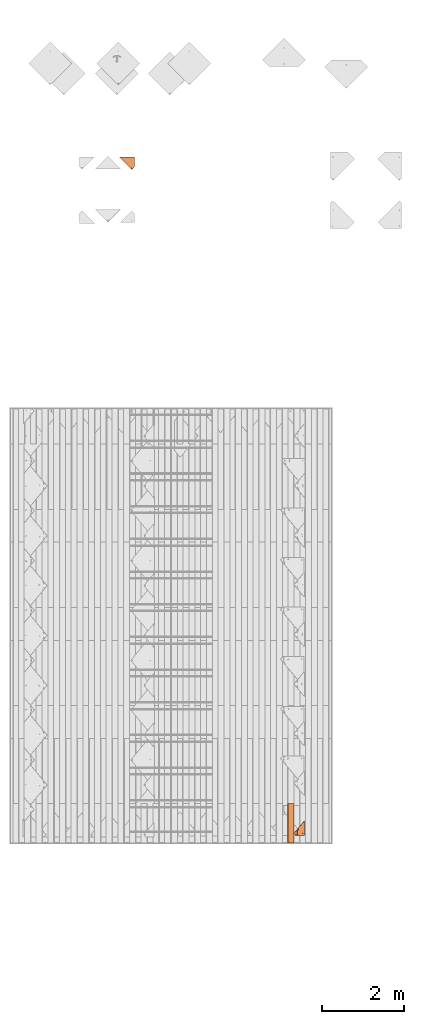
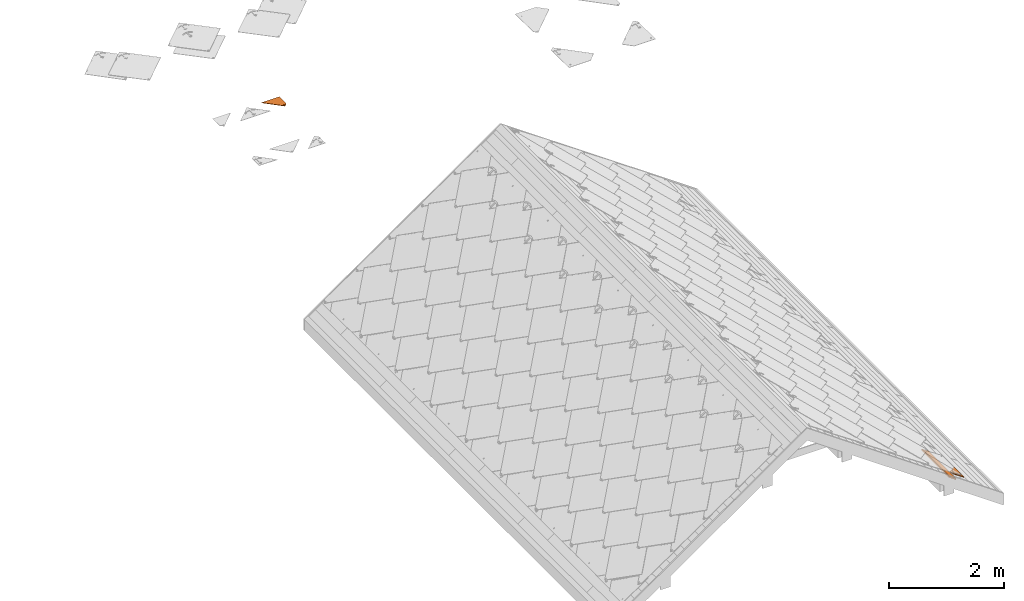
# One storey, part 111 of 133: 3 proxies, 1 element without a shape of its own.
"""IFC2X3 building model written with IfcOpenShell, lengths in millimetres."""

import ifcopenshell
import ifcopenshell.guid

model = None  # the IFC model being written
_history = None  # IfcOwnerHistory: only IFC2X3 demands one
_inside = {}  # id of a spatial element -> (the spatial element, [elements in it])
_under = {}  # id of a project, library or spatial element -> (it, [spatial elements below it])
_declared = {}  # id of a project -> (the project, [libraries it declares])
_typed = {}  # id of a type object -> (the type object, [elements of that type])
_made_of = {}  # id of a material, layer set ... -> (it, [elements and type objects made of it])


def new_model(schema):
    """Start an empty IFC model of exactly this schema.

    Asked for "IFC4X3", IfcOpenShell would pick the latest addendum, in which some entities
    have other attributes; the version numbers below select the first issue.
    IFC2X3 requires an IfcOwnerHistory on every rooted entity: one is made here for all.
    """
    global model, _history
    if schema == "IFC4X3":
        model = ifcopenshell.file(schema_version=(4, 3, 0, 0))
    else:
        model = ifcopenshell.file(schema=schema)
    _inside.clear()
    _under.clear()
    _declared.clear()
    _typed.clear()
    _made_of.clear()
    _history = None
    if model.schema == "IFC2X3":
        org = make("IfcOrganization", Name="unknown")
        user = make(
            "IfcPersonAndOrganization",
            ThePerson=make("IfcPerson", FamilyName="unknown"),
            TheOrganization=org,
        )
        app = make(
            "IfcApplication",
            ApplicationDeveloper=org,
            Version="unknown",
            ApplicationFullName="unknown",
            ApplicationIdentifier="unknown",
        )
        _history = make(
            "IfcOwnerHistory",
            OwningUser=user,
            OwningApplication=app,
            ChangeAction="ADDED",
            CreationDate=0,
        )
    return model


def make(cls, **values):
    """One entity of the class cls with the attributes given. An attribute that is None is left unset."""
    return model.create_entity(
        cls, **{name: value for name, value in values.items() if value is not None}
    )


def entity(cls, *values):
    """Any entity or typed value of the class cls, its attributes in the order of the schema. None: left unset."""
    e = model.create_entity(cls)
    for i, value in enumerate(values):
        if value is not None:
            e[i] = value
    return e


def rooted(cls, **values):
    """An entity with a GlobalId (a new one), such as an element, a storey or a relation."""
    return make(cls, GlobalId=ifcopenshell.guid.new(), OwnerHistory=_history, **values)


def si_unit(unit_type, name, prefix=None):
    """IfcSIUnit, for example si_unit("LENGTHUNIT", "METRE", prefix="MILLI")."""
    return make("IfcSIUnit", UnitType=unit_type, Prefix=prefix, Name=name)


def converted_unit(unit_type, name, factor, base, dimensions=None, offset=None):
    """IfcConversionBasedUnit, such as the inch: factor (a typed value) times the base unit."""
    return make(
        "IfcConversionBasedUnit"
        if offset is None
        else "IfcConversionBasedUnitWithOffset",
        ConversionOffset=offset,
        Dimensions=None
        if dimensions is None
        else entity("IfcDimensionalExponents", *dimensions),
        UnitType=unit_type,
        Name=name,
        ConversionFactor=make(
            "IfcMeasureWithUnit", ValueComponent=factor, UnitComponent=base
        ),
    )


def derived_unit(unit_type, elements):
    """IfcDerivedUnit: a product of units, each with its exponent."""
    return make(
        "IfcDerivedUnit",
        Elements=[
            make("IfcDerivedUnitElement", Unit=unit, Exponent=power)
            for unit, power in elements
        ],
        UnitType=unit_type,
    )


def assignment(units):
    """IfcUnitAssignment: the units of a project."""
    return None if units is None else make("IfcUnitAssignment", Units=units)


def point(xyz):
    """IfcCartesianPoint."""
    return None if xyz is None else make("IfcCartesianPoint", Coordinates=xyz)


def direction(xyz):
    """IfcDirection."""
    return None if xyz is None else make("IfcDirection", DirectionRatios=xyz)


def frame(location, z_axis=None, x_axis=None):
    """IfcAxis2Placement3D, a coordinate frame: its origin and axes. An axis left out is left unset."""
    return make(
        "IfcAxis2Placement3D",
        Location=point(location),
        Axis=direction(z_axis),
        RefDirection=direction(x_axis),
    )


def frame_2d(location, x_axis=None):
    """IfcAxis2Placement2D, a coordinate frame in the plane: its origin and x axis."""
    return make(
        "IfcAxis2Placement2D", Location=point(location), RefDirection=direction(x_axis)
    )


def origin():
    """The frame at (0, 0, 0) with its axes left unset."""
    return frame((0.0, 0.0, 0.0))


def place(relative_to, where):
    """IfcLocalPlacement: puts the frame where relative to a parent placement (None: the world)."""
    return make(
        "IfcLocalPlacement", PlacementRelTo=relative_to, RelativePlacement=where
    )


def context(
    kind, dimensions, precision=None, world=None, true_north=None, identifier=None
):
    """IfcGeometricRepresentationContext, for example the 3D "Model" context."""
    return make(
        "IfcGeometricRepresentationContext",
        ContextIdentifier=identifier,
        ContextType=kind,
        CoordinateSpaceDimension=dimensions,
        Precision=precision,
        WorldCoordinateSystem=world,
        TrueNorth=true_north,
    )


def subcontext(parent, identifier, kind, view, scale=None):
    """IfcGeometricRepresentationSubContext, for example "Body" below "Model"."""
    return make(
        "IfcGeometricRepresentationSubContext",
        ContextIdentifier=identifier,
        ContextType=kind,
        ParentContext=parent,
        TargetScale=scale,
        TargetView=view,
    )


def project(units=None, contexts=None):
    """IfcProject with its units and contexts."""
    return rooted(
        "IfcProject",
        Name="project",
        RepresentationContexts=contexts,
        UnitsInContext=assignment(units),
    )


def spatial(cls, under=None, at=None, **own):
    """A site, building, storey or space (cls), placed at a placement, below another one or the project."""
    s = rooted(cls, ObjectPlacement=at, **own)
    if under is not None:
        _under.setdefault(under.id(), (under, []))[1].append(s)
    return s


def profile(cls, at=None, kind="AREA", **sizes):
    """A parametric profile (cls). Its sizes go by their IFC names, for example OverallWidth=200.0."""
    return make(cls, ProfileType=kind, Position=at, **sizes)


def rectangle(**sizes):
    """IfcRectangleProfileDef."""
    return profile("IfcRectangleProfileDef", **sizes)


def extrude(swept, where, along, depth):
    """IfcExtrudedAreaSolid: the profile swept, set in the frame where, extruded along a direction by depth."""
    return make(
        "IfcExtrudedAreaSolid",
        SweptArea=swept,
        Position=where,
        ExtrudedDirection=direction(along),
        Depth=depth,
    )


def faces_of(points, faces, orient=None, outer=None):
    """IfcFace entities. A face is a list of loops; a loop is a list of indices into points, from 0.

    orient and outer hold one flag for each loop. By default every Orientation is true, the
    first loop of a face is its IfcFaceOuterBound and the others are IfcFaceBound.
    """
    made = []
    for i, loops in enumerate(faces):
        bounds = []
        for j, loop in enumerate(loops):
            is_outer = j == 0 if outer is None else outer[i][j]
            bounds.append(
                make(
                    "IfcFaceOuterBound" if is_outer else "IfcFaceBound",
                    Bound=make("IfcPolyLoop", Polygon=[points[k] for k in loop]),
                    Orientation=True if orient is None else orient[i][j],
                )
            )
        made.append(make("IfcFace", Bounds=bounds))
    return made


def faceted_brep(points, faces, orient=None, outer=None, voids=None):
    """IfcFacetedBrep: a solid bounded by flat faces; with voids (closed shells), ...WithVoids."""
    shared = [point(p) for p in points]
    hull = make("IfcClosedShell", CfsFaces=faces_of(shared, faces, orient, outer))
    if voids is None:
        return make("IfcFacetedBrep", Outer=hull)
    return make(
        "IfcFacetedBrepWithVoids",
        Outer=hull,
        Voids=[
            make(cls, CfsFaces=faces_of(shared, fs, o, b)) for cls, fs, o, b in voids
        ],
    )


def shape(context_of_items, identifier, shape_type, items):
    """IfcShapeRepresentation: the items that make up one representation, for example the "Body"."""
    return make(
        "IfcShapeRepresentation",
        ContextOfItems=context_of_items,
        RepresentationIdentifier=identifier,
        RepresentationType=shape_type,
        Items=items,
    )


def source(mapping_origin, context_of_items, identifier, shape_type, items):
    """IfcRepresentationMap: a shape defined once, which mapped items show again and again."""
    return make(
        "IfcRepresentationMap",
        MappingOrigin=mapping_origin,
        MappedRepresentation=shape(context_of_items, identifier, shape_type, items),
    )


def transform(
    local_origin,
    x_axis=None,
    y_axis=None,
    z_axis=None,
    scale=None,
    scale2=None,
    scale3=None,
    uniform=True,
):
    """IfcCartesianTransformationOperator3D, or its non-uniform kind. x_axis, y_axis, z_axis: its Axis1, 2, 3."""
    if uniform:
        return make(
            "IfcCartesianTransformationOperator3D",
            Axis1=direction(x_axis),
            Axis2=direction(y_axis),
            LocalOrigin=point(local_origin),
            Scale=scale,
            Axis3=direction(z_axis),
        )
    return make(
        "IfcCartesianTransformationOperator3DnonUniform",
        Axis1=direction(x_axis),
        Axis2=direction(y_axis),
        LocalOrigin=point(local_origin),
        Scale=scale,
        Axis3=direction(z_axis),
        Scale2=scale2,
        Scale3=scale3,
    )


def mapped(mapping_source, mapping_target):
    """IfcMappedItem: shows the shape of a source again, moved by a transform."""
    return make(
        "IfcMappedItem", MappingSource=mapping_source, MappingTarget=mapping_target
    )


def material(Name=None, Category=None):
    """IfcMaterial."""
    return make("IfcMaterial", Name=Name, Category=Category)


def material_list(materials):
    """IfcMaterialList."""
    return make("IfcMaterialList", Materials=materials)


def made_of(thing, what):
    """Note that an element or type object is made of a material, layer set ...; save() writes the relation."""
    if what is not None:
        _made_of.setdefault(what.id(), (what, []))[1].append(thing)
    return thing


def type_object(cls, material=None, **own):
    """A type object (cls), such as IfcWallType, which elements share."""
    return made_of(rooted(cls, **own), material)


def type_shapes(of_type, sources):
    """Give a type object the sources (RepresentationMaps) that its elements show as mapped items."""
    of_type.RepresentationMaps = sources


def element(
    cls,
    number,
    at=None,
    inside=None,
    cuts=None,
    type_object=None,
    material=None,
    context=None,
    identifier="Body",
    shape_type=None,
    held_by="IfcProductDefinitionShape",
    body=None,
    shapes=None,
    **own,
):
    """One element of the class cls, such as IfcWall. Its Tag is "e" and its number.

    at: its placement. inside: the storey or other place that contains it. cuts: it is an
    opening in that element (IfcRelVoidsElement). A single representation is given by context,
    identifier, shape_type and body (its items); several are given by shapes. held_by: the class
    of the entity that holds the representations. save() writes the other relations.
    """
    e = rooted(cls, Tag="e%d" % number, ObjectPlacement=at, **own)
    if body is not None:
        shapes = [shape(context, identifier, shape_type, body)]
    if shapes is not None:
        e.Representation = make(held_by, Representations=shapes)
    if inside is not None:
        _inside.setdefault(inside.id(), (inside, []))[1].append(e)
    if cuts is not None:
        rooted(
            "IfcRelVoidsElement", RelatingBuildingElement=cuts, RelatedOpeningElement=e
        )
    if type_object is not None:
        _typed.setdefault(type_object.id(), (type_object, []))[1].append(e)
    return made_of(e, material)


def aggregate(whole, parts):
    """IfcRelAggregates: a whole, such as a stair, and the parts it consists of."""
    return rooted("IfcRelAggregates", RelatingObject=whole, RelatedObjects=parts)


def save(model, path):
    """Write the relations noted so far, then the file.

    IfcRelAggregates (storeys below a building ...), IfcRelContainedInSpatialStructure (elements
    in a storey), IfcRelDefinesByType, IfcRelAssociatesMaterial and IfcRelDeclares: one each for
    every whole, place, type object, material and project.
    """
    for whole, parts in _under.values():
        aggregate(whole, parts)
    for where, things in _inside.values():
        rooted(
            "IfcRelContainedInSpatialStructure",
            RelatedElements=things,
            RelatingStructure=where,
        )
    for kind, things in _typed.values():
        rooted("IfcRelDefinesByType", RelatedObjects=things, RelatingType=kind)
    for what, things in _made_of.values():
        rooted("IfcRelAssociatesMaterial", RelatedObjects=things, RelatingMaterial=what)
    for by, libraries in _declared.values():
        rooted("IfcRelDeclares", RelatingContext=by, RelatedDefinitions=libraries)
    model.write(path)


model = new_model("IFC2X3")

# Units and contexts
model_context = context("Model", 3, precision=0.01, world=origin(), true_north=direction((6.12303176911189e-17, 1.0)))
body_context = subcontext(model_context, "Body", "Model", "MODEL_VIEW")
ifc_project = project(units=[si_unit("LENGTHUNIT", "METRE", prefix="MILLI"), si_unit("AREAUNIT", "SQUARE_METRE"), si_unit("VOLUMEUNIT", "CUBIC_METRE"), converted_unit("PLANEANGLEUNIT", "DEGREE", entity("IfcRatioMeasure", 0.0174532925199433), si_unit("PLANEANGLEUNIT", "RADIAN"), dimensions=[0, 0, 0, 0, 0, 0, 0]), si_unit("MASSUNIT", "GRAM", prefix="KILO"), derived_unit("MASSDENSITYUNIT", [(si_unit("MASSUNIT", "GRAM", prefix="KILO"), 1), (si_unit("LENGTHUNIT", "METRE"), -3)]), si_unit("TIMEUNIT", "SECOND"), si_unit("FREQUENCYUNIT", "HERTZ"), si_unit("THERMODYNAMICTEMPERATUREUNIT", "DEGREE_CELSIUS"), derived_unit("THERMALTRANSMITTANCEUNIT", [(si_unit("MASSUNIT", "GRAM", prefix="KILO"), 1), (si_unit("THERMODYNAMICTEMPERATUREUNIT", "KELVIN"), -1), (si_unit("TIMEUNIT", "SECOND"), -3)]), derived_unit("VOLUMETRICFLOWRATEUNIT", [(si_unit("LENGTHUNIT", "METRE"), 3), (si_unit("TIMEUNIT", "SECOND"), -1)]), si_unit("ELECTRICCURRENTUNIT", "AMPERE"), si_unit("ELECTRICVOLTAGEUNIT", "VOLT"), si_unit("POWERUNIT", "WATT"), si_unit("FORCEUNIT", "NEWTON", prefix="KILO"), si_unit("ILLUMINANCEUNIT", "LUX"), si_unit("LUMINOUSFLUXUNIT", "LUMEN"), si_unit("LUMINOUSINTENSITYUNIT", "CANDELA"), derived_unit("USERDEFINED", [(si_unit("MASSUNIT", "GRAM", prefix="KILO"), -1), (si_unit("LENGTHUNIT", "METRE"), -2), (si_unit("TIMEUNIT", "SECOND"), 3), (si_unit("LUMINOUSFLUXUNIT", "LUMEN"), 1)]), derived_unit("LINEARVELOCITYUNIT", [(si_unit("LENGTHUNIT", "METRE"), 1), (si_unit("TIMEUNIT", "SECOND"), -1)]), si_unit("PRESSUREUNIT", "PASCAL"), derived_unit("USERDEFINED", [(si_unit("LENGTHUNIT", "METRE"), -2), (si_unit("MASSUNIT", "GRAM", prefix="KILO"), 1), (si_unit("TIMEUNIT", "SECOND"), -2)])], contexts=[model_context])

# Site, building, storey
site_placement = place(None, origin())
site = spatial("IfcSite", under=ifc_project, at=site_placement, Name="Default", CompositionType="ELEMENT")
building_placement = place(site_placement, origin())
building = spatial("IfcBuilding", under=site, at=building_placement, CompositionType="ELEMENT")
storey_placement = place(building_placement, origin())
storey = spatial("IfcBuildingStorey", under=building, at=storey_placement, Name="Level 1", CompositionType="ELEMENT", Elevation=0.0)

# Assembly, proxy
assembly_placement = place(storey_placement, origin())
assembly = element("IfcElementAssembly", 1, at=assembly_placement, inside=storey, Name="Structural Framing Assembly:Roof Construction Assembly", ObjectType="Structural Framing Assembly:Roof Construction Assembly", AssemblyPlace="NOTDEFINED", PredefinedType="USERDEFINED")
ifc_material_1 = material(Name="Wood - Generic - Wood For Showcase")
building_element_proxy_type_1 = type_object("IfcBuildingElementProxyType", Name="Structural Framing 15", PredefinedType="NOTDEFINED", material=ifc_material_1)
shared_shape_1 = source(origin(), body_context, "Body", "SweptSolid", [
    extrude(rectangle(XDim=24.9999999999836, YDim=174.344679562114, at=frame_2d((3.79252185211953e-13, 7.105427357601e-14), x_axis=(1.0, 0.0))), frame((1285.3560130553, 2967.09519417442, 2760.23940055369), z_axis=(0.0, 1.0, 0.0), x_axis=(0.573576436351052, 0.0, 0.819152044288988)), (0.0, 0.0, 1.0), 958.455607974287),
])
type_shapes(building_element_proxy_type_1, [shared_shape_1])
proxy_1_placement = place(assembly_placement, frame((2856.29601348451, -9670.0, -2000.0)))
proxy_1 = element("IfcBuildingElementProxy", 2, at=proxy_1_placement, type_object=building_element_proxy_type_1, material=ifc_material_1, Name="Structural Framing 259:Structural Framing 15", ObjectType="Structural Framing 259:Structural Framing 15", context=body_context, shape_type="MappedRepresentation", body=[
    mapped(shared_shape_1, transform((0.0, 0.0, 0.0), scale=1.0)),
])
aggregate(assembly, [proxy_1])

# Proxies
ifc_material_2 = material(Name="Rubber - Sunstyle - Black")
ifc_material_3 = material(Name="Glass - Sunstyle - Tainted Black")
ifc_material_list_1 = material_list([ifc_material_2, ifc_material_3])
ifc_material_list_2 = material_list([ifc_material_2, ifc_material_3])
building_element_proxy_type_2 = type_object("IfcBuildingElementProxyType", Name="Corner Top Small Right - Black", PredefinedType="NOTDEFINED", material=ifc_material_list_2)
shared_shape_2 = source(origin(), body_context, "Body", "Brep", [
    faceted_brep([(300.309183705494, 41.6050579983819, 1.59527223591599), (294.534980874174, 38.2717878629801, 1.65109621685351), (294.534980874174, 38.6400969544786, 23.6429655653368), (300.309183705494, 41.9733670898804, 23.5871415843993), (294.534980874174, 31.6052475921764, 1.76274417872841), (294.534980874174, 31.9735566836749, 23.7546135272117), (300.309183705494, 28.2719774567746, 1.81856815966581), (300.309183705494, 28.640286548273, 23.8104375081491), (306.083386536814, 31.6052475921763, 1.7627441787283), (306.083386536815, 31.9735566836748, 23.7546135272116), (306.083386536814, 38.2717878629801, 1.65109621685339), (306.083386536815, 38.6400969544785, 23.6429655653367), (291.705479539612, 26.704328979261, 23.8428599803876), (300.309183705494, 23.1410577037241, 23.9025359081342), (288.141708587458, 35.3068268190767, 23.6987895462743), (291.705479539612, 43.9093246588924, 23.5547191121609), (300.309183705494, 47.4725959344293, 23.4950431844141), (308.912887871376, 43.9093246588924, 23.5547191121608), (312.476658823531, 35.3068268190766, 23.6987895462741), (308.912887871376, 26.704328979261, 23.8428599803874), (288.984939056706, 37.6019039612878, 26.0116314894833), (290.552709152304, 35.3778417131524, 27.9391141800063), (300.309183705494, 42.6909169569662, 28.5718145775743), (300.309183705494, 43.9314145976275, 27.9914679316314), (300.309183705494, 46.0889654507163, 26.98209285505), (300.309183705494, 23.6971017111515, 25.1775938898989), (300.309183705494, 24.6406783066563, 27.3412982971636), (300.309183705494, 28.0900540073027, 28.8163427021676), (300.309183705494, 46.9595598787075, 24.7880055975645), (293.985938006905, 31.7402697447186, 28.7552106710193), (293.985938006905, 39.0407012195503, 28.6329466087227), (311.633428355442, 33.0904837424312, 26.0871865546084), (310.15806385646, 34.3034352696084, 27.8602460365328), (306.632429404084, 39.0407012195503, 28.6329466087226), (306.632429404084, 31.7402697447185, 28.7552106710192), (293.985938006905, 31.8742982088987, 36.7580988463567), (300.309183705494, 28.224082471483, 36.8192308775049), (300.309183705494, 35.5245139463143, 36.6969668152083), (293.985938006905, 39.17472968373, 36.6358347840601), (306.632429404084, 31.8742982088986, 36.7580988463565), (306.632429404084, 39.1747296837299, 36.6358347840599), (300.309183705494, 42.8249454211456, 36.5747027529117), (300.309183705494, 34.9385177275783, 1.7069201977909)], [[[0, 1, 2, 3]], [[1, 4, 5, 2]], [[4, 6, 7, 5]], [[6, 8, 9, 7]], [[8, 10, 11, 9]], [[10, 0, 3, 11]], [[12, 7, 13]], [[7, 12, 5]], [[14, 5, 12]], [[5, 14, 2]], [[15, 2, 14]], [[3, 2, 15]], [[15, 16, 3]], [[16, 17, 3]], [[11, 3, 17]], [[11, 17, 18]], [[9, 11, 18]], [[18, 19, 9]], [[7, 9, 19]], [[19, 13, 7]], [[20, 14, 12]], [[21, 22, 23, 24]], [[24, 20, 21]], [[25, 20, 12]], [[26, 27, 21]], [[15, 14, 20]], [[12, 13, 25]], [[20, 28, 15]], [[28, 20, 24]], [[21, 27, 29]], [[21, 29, 30]], [[26, 21, 20]], [[20, 25, 26]], [[15, 28, 16]], [[21, 30, 22]], [[31, 18, 17]], [[28, 31, 17]], [[32, 27, 26]], [[26, 31, 32]], [[26, 25, 31]], [[25, 19, 31]], [[17, 16, 28]], [[31, 19, 18]], [[24, 31, 28]], [[33, 34, 32]], [[23, 22, 33]], [[24, 32, 31]], [[27, 32, 34]], [[32, 23, 33]], [[19, 25, 13]], [[32, 24, 23]], [[35, 36, 37]], [[37, 38, 35]], [[36, 39, 37]], [[40, 37, 39]], [[37, 40, 41]], [[37, 41, 38]], [[42, 6, 4]], [[4, 1, 42]], [[1, 0, 42]], [[42, 8, 6]], [[0, 10, 42]], [[8, 42, 10]], [[22, 30, 38, 41]], [[30, 29, 35, 38]], [[29, 27, 36, 35]], [[27, 34, 39, 36]], [[34, 33, 40, 39]], [[33, 22, 41, 40]]]),
    faceted_brep([(300.700466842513, 0.125588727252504, 24.1962208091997), (304.302649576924, 28.4261395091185, 23.7222570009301), (302.373201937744, 27.6270481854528, 23.7356397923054), (305.959503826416, 29.6973102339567, 23.7009680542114), (300.302649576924, 27.3544930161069, 23.7402044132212), (307.230852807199, 31.3539321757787, 23.6732237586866), (360.803898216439, 60.2121670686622, 23.189920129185), (298.232097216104, 27.6270481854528, 23.7356397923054), (296.302649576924, 28.4261395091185, 23.7222570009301), (294.645795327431, 29.6973102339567, 23.7009680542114), (293.374446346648, 31.3539321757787, 23.6732237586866), (292.575242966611, 33.2831092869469, 23.6409148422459), (0.0, 300.741739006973, 19.1616482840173), (308.030056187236, 33.2831092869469, 23.6409148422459), (308.302649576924, 35.3533713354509, 23.6062431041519), (308.030056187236, 37.4236333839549, 23.5715713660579), (307.230852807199, 39.3528104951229, 23.5392624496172), (305.959503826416, 41.0094324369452, 23.5115181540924), (304.302649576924, 42.2806031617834, 23.4902292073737), (302.373201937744, 43.079694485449, 23.4768464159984), (300.302649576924, 43.3522496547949, 23.4722817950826), (360.803898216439, 300.741739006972, 19.1616482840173), (298.232097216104, 43.079694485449, 23.4768464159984), (296.302649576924, 42.2806031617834, 23.4902292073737), (294.645795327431, 41.009432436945, 23.5115181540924), (292.302649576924, 35.3533713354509, 23.6062431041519), (292.575242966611, 37.4236333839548, 23.5715713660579), (293.374446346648, 39.3528104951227, 23.5392624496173), (300.302649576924, 43.2266609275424, 15.9733333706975), (360.803898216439, 300.616150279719, 11.6626998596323), (360.803898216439, 60.0865783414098, 15.6909717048), (302.373201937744, 42.9541057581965, 15.9778979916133), (298.232097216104, 42.9541057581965, 15.9778979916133), (296.302649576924, 42.1550144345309, 15.9912807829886), (0.0, 300.61615027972, 11.6626998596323), (294.645795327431, 40.8838437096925, 16.0125697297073), (293.374446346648, 39.2272217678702, 16.0403140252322), (292.575242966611, 37.2980446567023, 16.0726229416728), (292.302649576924, 35.2277826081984, 16.1072946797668), (292.575242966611, 33.1575205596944, 16.1419664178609), (300.700466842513, 0.0, 16.6972723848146), (293.374446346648, 31.2283434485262, 16.1742753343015), (294.645795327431, 29.5717215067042, 16.2020196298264), (296.302649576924, 28.300550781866, 16.2233085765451), (298.232097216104, 27.5014594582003, 16.2366913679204), (300.302649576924, 27.2289042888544, 16.2412559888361), (302.373201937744, 27.5014594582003, 16.2366913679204), (304.302649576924, 28.300550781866, 16.2233085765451), (305.959503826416, 29.5717215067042, 16.2020196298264), (307.230852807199, 31.2283434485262, 16.1742753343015), (308.030056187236, 33.1575205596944, 16.1419664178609), (308.302649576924, 35.2277826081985, 16.1072946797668), (308.030056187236, 37.2980446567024, 16.0726229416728), (307.230852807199, 39.2272217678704, 16.0403140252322), (305.959503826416, 40.8838437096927, 16.0125697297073), (304.302649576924, 42.1550144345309, 15.9912807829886)], [[[0, 1, 2]], [[1, 0, 3]], [[0, 2, 4]], [[5, 3, 0]], [[5, 0, 6]], [[4, 7, 0]], [[7, 8, 0]], [[8, 9, 0]], [[9, 10, 0]], [[10, 11, 0]], [[0, 11, 12]], [[6, 13, 5]], [[14, 13, 6]], [[15, 14, 6]], [[16, 15, 6]], [[17, 16, 6]], [[6, 18, 17]], [[19, 18, 6]], [[19, 6, 20]], [[6, 21, 20]], [[20, 21, 22]], [[23, 22, 21]], [[12, 23, 21]], [[23, 12, 24]], [[11, 25, 12]], [[26, 12, 25]], [[26, 27, 12]], [[27, 24, 12]], [[28, 29, 30]], [[28, 30, 31]], [[32, 29, 28]], [[32, 33, 29]], [[29, 33, 34]], [[33, 35, 34]], [[35, 36, 34]], [[36, 37, 34]], [[34, 37, 38]], [[38, 39, 34]], [[40, 34, 39]], [[39, 41, 40]], [[41, 42, 40]], [[42, 43, 40]], [[44, 40, 43]], [[44, 45, 40]], [[46, 40, 45]], [[40, 46, 47]], [[47, 48, 40]], [[48, 49, 40]], [[50, 30, 49]], [[30, 40, 49]], [[50, 51, 30]], [[30, 51, 52]], [[52, 53, 30]], [[53, 54, 30]], [[54, 55, 30]], [[31, 30, 55]], [[0, 12, 34, 40]], [[6, 0, 40, 30]], [[25, 38, 37, 26]], [[26, 37, 36, 27]], [[23, 24, 35, 33]], [[35, 24, 27, 36]], [[22, 23, 33, 32]], [[22, 32, 28, 20]], [[20, 28, 31, 19]], [[19, 31, 55, 18]], [[16, 17, 54, 53]], [[54, 17, 18, 55]], [[15, 16, 53, 52]], [[15, 52, 51, 14]], [[14, 51, 50, 13]], [[13, 50, 49, 5]], [[1, 3, 48, 47]], [[48, 3, 5, 49]], [[2, 1, 47, 46]], [[2, 46, 45, 4]], [[4, 45, 44, 7]], [[7, 44, 43, 8]], [[10, 9, 42, 41]], [[42, 9, 8, 43]], [[11, 10, 41, 39]], [[11, 39, 38, 25]], [[12, 21, 29, 34]], [[21, 6, 30, 29]]]),
])
type_shapes(building_element_proxy_type_2, [shared_shape_2])
proxy_2_placement = place(storey_placement, frame((-51.1380299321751, 9780.85327205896, 2.41109682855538)))
element("IfcBuildingElementProxy", 3, at=proxy_2_placement, inside=storey, type_object=building_element_proxy_type_2, material=ifc_material_list_1, Name="Roofing_Panels_SunStyle_Tile_Corner-Top-Small-Right:Corner Top Small Right - Black", ObjectType="Roofing_Panels_SunStyle_Tile_Corner-Top-Small-Right:Corner Top Small Right - Black", context=body_context, shape_type="MappedRepresentation", body=[
    mapped(shared_shape_2, transform((0.0, 0.0, 0.0), scale=1.0)),
])
ifc_material_list_3 = material_list([ifc_material_2, ifc_material_3])
ifc_material_list_4 = material_list([ifc_material_2, ifc_material_3])
building_element_proxy_type_3 = type_object("IfcBuildingElementProxyType", Name="Corner Bottom Small Left - Black", PredefinedType="NOTDEFINED", material=ifc_material_list_4)
shared_shape_3 = source(origin(), body_context, "Body", "Brep", [
    faceted_brep([(330.847757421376, 18.4932261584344, 12.2894055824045), (339.332443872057, 26.9779126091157, 12.1473081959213), (339.332443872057, 27.0030303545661, 13.6470978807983), (330.847757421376, 18.5183439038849, 13.7891952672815), (61.6993486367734, 287.566165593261, 7.7831033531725), (10.0799586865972, 235.961249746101, 8.64735729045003), (1.59527223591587, 244.445936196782, 8.50525990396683), (61.6993486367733, 304.533159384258, 7.49894842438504), (61.6993486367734, 304.558277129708, 8.9987381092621), (1.59527223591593, 244.471053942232, 10.0050495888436), (10.0799586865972, 235.986367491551, 10.147146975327), (61.6993486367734, 287.591283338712, 9.2828930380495)], [[[0, 1, 2, 3]], [[1, 0, 4, 5, 6, 7]], [[2, 1, 7, 8]], [[3, 2, 8, 9, 10, 11]], [[0, 3, 11, 4]], [[5, 10, 9, 6]], [[8, 7, 6, 9]], [[4, 11, 10, 5]]]),
    faceted_brep([(61.6990261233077, 46.946835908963, 21.8142807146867), (61.6990261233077, 51.4462045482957, 21.7389274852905), (53.0953219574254, 50.5101071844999, 21.7546047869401), (70.3027302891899, 50.5101071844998, 21.7546047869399), (68.3392547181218, 55.2794047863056, 21.6747309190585), (73.8665012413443, 59.1126050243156, 21.6105343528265), (68.3392547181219, 62.9458052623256, 21.5463377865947), (70.30273028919, 67.7151028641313, 21.4664639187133), (61.6990261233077, 66.7790055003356, 21.4821412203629), (61.6990261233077, 71.2783741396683, 21.4067879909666), (53.0953219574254, 67.7151028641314, 21.4664639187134), (55.0587975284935, 62.9458052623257, 21.5463377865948), (49.5315510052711, 59.1126050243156, 21.6105343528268), (55.0587975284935, 55.2794047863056, 21.6747309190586), (55.0587978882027, 62.6778824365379, 5.54858115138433), (61.6990261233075, 66.5110824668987, 5.48438458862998), (55.0587978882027, 55.0114823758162, 5.6769742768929), (61.6990261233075, 51.1782823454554, 5.74117083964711), (68.3392543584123, 55.0114823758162, 5.67697427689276), (68.3392543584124, 62.6778824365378, 5.5485811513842), (53.0953219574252, 50.2421845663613, 5.75684814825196), (61.6990261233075, 46.6789132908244, 5.81652407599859), (49.5315510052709, 58.844682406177, 5.61277771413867), (53.0953219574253, 67.4471802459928, 5.4687072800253), (61.6990261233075, 71.0104515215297, 5.4090313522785), (70.3027302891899, 67.4471802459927, 5.46870728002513), (73.8665012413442, 58.844682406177, 5.61277771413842), (70.3027302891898, 50.2421845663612, 5.75684814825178)], [[[0, 1, 2]], [[1, 0, 3]], [[3, 4, 1]], [[4, 3, 5]], [[6, 4, 5]], [[5, 7, 6]], [[7, 8, 6]], [[8, 7, 9]], [[8, 9, 10]], [[10, 11, 8]], [[12, 11, 10]], [[2, 13, 12]], [[12, 13, 11]], [[13, 2, 1]], [[8, 11, 14, 15]], [[11, 13, 16, 14]], [[13, 1, 17, 16]], [[1, 4, 18, 17]], [[4, 6, 19, 18]], [[6, 8, 15, 19]], [[20, 17, 21]], [[17, 20, 16]], [[22, 16, 20]], [[14, 16, 22]], [[23, 14, 22]], [[15, 14, 23]], [[23, 24, 15]], [[24, 25, 15]], [[19, 15, 25]], [[19, 25, 26]], [[26, 18, 19]], [[26, 27, 18]], [[17, 18, 27]], [[27, 21, 17]], [[24, 23, 10, 9]], [[10, 23, 22, 12]], [[20, 21, 0, 2]], [[20, 2, 12, 22]], [[21, 27, 3, 0]], [[3, 27, 26, 5]], [[25, 24, 9, 7]], [[25, 7, 5, 26]]]),
    faceted_brep([(1.59527223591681, 244.445936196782, 8.50525990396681), (58.5931975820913, 70.7020897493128, 11.4150370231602), (61.6990261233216, 71.1109225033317, 11.4081900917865), (55.6990261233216, 69.5034527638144, 11.4351112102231), (64.8048546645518, 70.7020897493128, 11.4150370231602), (53.213744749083, 67.596696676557, 11.4670446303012), (51.3067212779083, 65.1117637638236, 11.5086610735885), (1.5952722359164, 0.125588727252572, 12.5970178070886), (67.6990261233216, 69.5034527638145, 11.4351112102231), (61.6993486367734, 304.533159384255, 7.49894842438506), (50.1079162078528, 62.2179980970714, 11.5571244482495), (49.6990261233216, 59.1126050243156, 11.6091320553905), (50.1079162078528, 56.0072119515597, 11.6611396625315), (51.3067212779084, 53.1134462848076, 11.7096030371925), (53.2137447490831, 50.6285133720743, 11.7512194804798), (55.6990261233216, 48.7217572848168, 11.7831529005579), (58.5931975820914, 47.5231202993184, 11.8032270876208), (61.6990261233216, 47.1142875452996, 11.8100740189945), (64.8048546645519, 47.5231202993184, 11.8032270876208), (67.6990261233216, 48.7217572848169, 11.7831529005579), (366.192299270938, 0.125588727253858, 12.5970178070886), (72.0913309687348, 65.1117637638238, 11.5086610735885), (73.2901360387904, 62.2179980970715, 11.5571244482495), (73.6990261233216, 59.1126050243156, 11.6091320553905), (70.1843074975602, 50.6285133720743, 11.7512194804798), (72.0913309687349, 53.1134462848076, 11.7096030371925), (73.2901360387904, 56.0072119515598, 11.6611396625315), (70.1843074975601, 67.596696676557, 11.4670446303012), (1.5952722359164, 0.0, 5.09806938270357), (55.6990261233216, 48.5961685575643, 4.2842044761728), (58.5931975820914, 47.3975315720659, 4.30427866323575), (53.2137447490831, 50.5029246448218, 4.25227105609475), (61.6990261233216, 46.9886988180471, 4.3111255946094), (51.3067212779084, 52.9878575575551, 4.21065461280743), (50.1079162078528, 55.8816232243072, 4.16219123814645), (49.6990261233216, 58.9870162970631, 4.11018363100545), (50.1079162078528, 62.0924093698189, 4.05817602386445), (64.8048546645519, 47.3975315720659, 4.30427866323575), (67.6990261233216, 48.5961685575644, 4.2842044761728), (366.192299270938, 0.0, 5.09806938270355), (51.3067212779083, 64.9861750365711, 4.00971264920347), (1.59527223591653, 244.320347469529, 1.00631147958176), (53.213744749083, 67.4711079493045, 3.96809620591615), (55.6990261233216, 69.3778640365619, 3.93616278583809), (58.5931975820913, 70.5765010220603, 3.91608859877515), (61.6990261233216, 70.9853337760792, 3.90924166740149), (64.8048546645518, 70.5765010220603, 3.91608859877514), (67.6990261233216, 69.377864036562, 3.93616278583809), (61.6993486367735, 304.407570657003, 0.0), (72.0913309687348, 64.9861750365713, 4.00971264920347), (70.1843074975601, 67.4711079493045, 3.96809620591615), (70.1843074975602, 50.5029246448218, 4.25227105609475), (72.0913309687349, 52.9878575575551, 4.21065461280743), (73.2901360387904, 55.8816232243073, 4.16219123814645), (73.6990261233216, 58.9870162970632, 4.11018363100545), (73.2901360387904, 62.092409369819, 4.05817602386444)], [[[0, 1, 2]], [[1, 0, 3]], [[0, 2, 4]], [[5, 3, 0]], [[6, 5, 0]], [[6, 0, 7]], [[8, 0, 4]], [[0, 8, 9]], [[7, 10, 6]], [[11, 10, 7]], [[12, 11, 7]], [[13, 12, 7]], [[7, 14, 13]], [[14, 7, 15]], [[16, 15, 7]], [[7, 17, 16]], [[17, 7, 18]], [[19, 18, 7]], [[20, 19, 7]], [[9, 21, 20]], [[20, 21, 22]], [[20, 22, 23]], [[19, 20, 24]], [[25, 24, 20]], [[26, 25, 20]], [[26, 20, 23]], [[9, 8, 27]], [[27, 21, 9]], [[28, 29, 30]], [[29, 28, 31]], [[28, 30, 32]], [[33, 31, 28]], [[34, 33, 28]], [[35, 34, 28]], [[28, 36, 35]], [[37, 28, 32]], [[37, 38, 28]], [[28, 38, 39]], [[36, 28, 40]], [[28, 41, 40]], [[42, 40, 41]], [[41, 43, 42]], [[43, 41, 44]], [[45, 44, 41]], [[41, 46, 45]], [[41, 47, 46]], [[47, 41, 48]], [[49, 48, 39]], [[50, 47, 48]], [[48, 49, 50]], [[38, 51, 39]], [[51, 52, 39]], [[52, 53, 39]], [[39, 53, 54]], [[55, 39, 54]], [[49, 39, 55]], [[11, 35, 36, 10]], [[10, 36, 40, 6]], [[3, 5, 42, 43]], [[40, 42, 5, 6]], [[1, 3, 43, 44]], [[45, 2, 1, 44]], [[4, 46, 47, 8]], [[8, 47, 50, 27]], [[22, 21, 49, 55]], [[50, 49, 21, 27]], [[23, 22, 55, 54]], [[4, 2, 45, 46]], [[23, 54, 53, 26]], [[26, 53, 52, 25]], [[19, 24, 51, 38]], [[52, 51, 24, 25]], [[18, 19, 38, 37]], [[32, 17, 18, 37]], [[16, 30, 29, 15]], [[15, 29, 31, 14]], [[12, 13, 33, 34]], [[31, 33, 13, 14]], [[11, 12, 34, 35]], [[16, 17, 32, 30]], [[0, 9, 48, 41]], [[7, 0, 41, 28]], [[20, 7, 28, 39]], [[9, 20, 39, 48]]]),
    faceted_brep([(1.59527223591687, 209.239382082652, 19.0962843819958), (1.59527223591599, 182.513149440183, 19.5438822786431), (24.4390403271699, 190.969673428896, 19.4022565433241), (34.6448586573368, 218.551914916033, 18.9403226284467), (48.3990261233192, 195.36105911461, 19.3287117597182), (68.9162632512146, 220.671424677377, 18.9048261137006), (74.999026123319, 195.361059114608, 19.3287117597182), (74.99902612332, 85.4841763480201, 21.1688761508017), (48.3990261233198, 85.4841763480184, 21.1688761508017), (61.6990261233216, 71.2783741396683, 21.4067879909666), (58.5931975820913, 70.8695413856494, 21.4136349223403), (55.6990261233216, 69.670904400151, 21.4337091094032), (42.9949199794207, 81.9461281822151, 21.2281296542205), (53.213744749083, 67.7641483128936, 21.4656425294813), (38.4943757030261, 77.3131226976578, 21.3057209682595), (51.3067212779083, 65.2792154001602, 21.5072589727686), (35.1148065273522, 71.8089720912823, 21.397901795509), (50.1079162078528, 62.385449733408, 21.5557223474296), (33.0194733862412, 65.6995720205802, 21.5002190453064), (49.6990261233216, 59.2800566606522, 21.6077299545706), (32.3095980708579, 59.2800566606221, 21.6077299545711), (50.1079162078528, 56.1746635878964, 21.6597375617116), (51.3067212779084, 53.2808979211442, 21.7082009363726), (53.2137447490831, 50.7959650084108, 21.7498173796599), (61.6990261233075, 29.8947493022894, 22.0998607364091), (55.6990261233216, 48.8892089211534, 21.7817507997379), (58.5931975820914, 47.690571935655, 21.8018249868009), (61.6990261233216, 47.2817391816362, 21.8086719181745), (64.8048546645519, 47.690571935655, 21.8018249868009), (67.6990261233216, 48.8892089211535, 21.7817507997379), (70.1843074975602, 50.7959650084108, 21.7498173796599), (91.0884541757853, 59.2800566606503, 21.6077299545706), (72.0913309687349, 53.2808979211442, 21.7082009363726), (73.2901360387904, 56.1746635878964, 21.6597375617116), (73.6990261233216, 59.2800566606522, 21.6077299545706), (90.3785788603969, 65.699572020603, 21.500219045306), (73.2901360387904, 62.3854497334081, 21.5557223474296), (88.2832457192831, 71.8089720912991, 21.3979017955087), (72.0913309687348, 65.2792154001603, 21.5072589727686), (84.9036765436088, 77.3131226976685, 21.3057209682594), (70.1843074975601, 67.7641483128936, 21.4656425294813), (80.4031322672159, 81.9461281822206, 21.2281296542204), (67.6990261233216, 69.6709044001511, 21.4337091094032), (64.8048546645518, 70.8695413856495, 21.4136349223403), (102.861723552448, 215.50219023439, 18.9913979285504), (100.468768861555, 190.546178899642, 19.4093490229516), (134.948197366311, 203.277664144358, 19.1961283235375), (124.623359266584, 181.142545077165, 19.5668364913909), (146.643422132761, 167.469148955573, 19.7958318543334), (163.72659789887, 184.549929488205, 19.5097712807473), (51.3067212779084, 53.1134462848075, 11.7096030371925), (32.3095980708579, 59.1126050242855, 11.609132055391), (50.1079162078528, 56.0072119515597, 11.6611396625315), (53.2137447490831, 50.6285133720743, 11.7512194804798), (61.6990261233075, 29.7272976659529, 12.1012628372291), (55.6990261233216, 48.7217572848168, 11.7831529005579), (58.5931975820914, 47.5231202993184, 11.8032270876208), (61.6990261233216, 47.1142875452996, 11.8100740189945), (64.8048546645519, 47.5231202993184, 11.8032270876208), (67.6990261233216, 48.7217572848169, 11.7831529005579), (70.1843074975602, 50.6285133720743, 11.7512194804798), (91.0884541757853, 59.1126050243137, 11.6091320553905), (72.0913309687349, 53.1134462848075, 11.7096030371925), (73.2901360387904, 56.0072119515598, 11.6611396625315), (73.6990261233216, 59.1126050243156, 11.6091320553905), (90.3785788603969, 65.5321203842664, 11.5016211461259), (73.2901360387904, 62.2179980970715, 11.5571244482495), (88.2832457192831, 71.6415204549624, 11.3993038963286), (72.0913309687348, 65.1117637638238, 11.5086610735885), (84.9036765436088, 77.1456710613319, 11.3071230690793), (70.1843074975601, 67.596696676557, 11.4670446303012), (80.4031322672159, 81.778676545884, 11.2295317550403), (67.6990261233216, 69.5034527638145, 11.4351112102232), (74.99902612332, 85.3167247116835, 11.1702782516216), (64.8048546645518, 70.7020897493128, 11.4150370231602), (61.6990261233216, 71.1109225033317, 11.4081900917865), (48.39902612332, 85.3167247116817, 11.1702782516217), (58.5931975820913, 70.7020897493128, 11.4150370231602), (55.6990261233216, 69.5034527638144, 11.4351112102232), (42.9949199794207, 81.7786765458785, 11.2295317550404), (53.213744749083, 67.596696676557, 11.4670446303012), (38.4943757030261, 77.1456710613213, 11.3071230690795), (51.3067212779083, 65.1117637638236, 11.5086610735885), (35.1148065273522, 71.6415204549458, 11.3993038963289), (50.1079162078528, 62.2179980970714, 11.5571244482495), (33.0194733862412, 65.5321203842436, 11.5016211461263), (49.6990261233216, 59.1126050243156, 11.6091320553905), (48.3990261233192, 195.193607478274, 9.33011386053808), (74.99902612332, 195.193607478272, 9.33011386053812), (68.9162632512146, 220.50397304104, 8.90622821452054), (34.6448586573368, 218.384463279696, 8.94172472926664), (24.4390403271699, 190.802221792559, 9.40365864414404), (1.59527223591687, 209.071930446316, 9.09768648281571), (1.59527223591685, 182.345697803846, 9.545284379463), (102.861723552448, 215.334738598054, 8.99280002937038), (100.468768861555, 190.378727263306, 9.4107511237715), (134.948197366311, 203.110212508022, 9.19753042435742), (124.623359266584, 180.975093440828, 9.5682385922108), (146.643422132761, 167.301697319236, 9.79723395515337), (163.72659789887, 184.382477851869, 9.51117338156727), (169.978999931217, 179.020830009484, 9.60096764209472), (175.949995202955, 173.347554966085, 9.69598088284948), (172.968069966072, 140.980740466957, 10.2380444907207), (190.645739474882, 158.655931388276, 9.94202902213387), (190.645739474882, 158.69779429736, 12.4416784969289), (172.968069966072, 141.022603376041, 12.7376939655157), (163.72659789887, 184.424340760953, 12.0108228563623), (146.643422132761, 167.34356022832, 12.2968834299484), (175.949995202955, 173.38941787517, 12.1956303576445), (169.978999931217, 179.062692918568, 12.1006171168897)], [[[0, 1, 2]], [[0, 2, 3]], [[2, 4, 3]], [[3, 4, 5]], [[5, 4, 6]], [[7, 6, 4]], [[7, 4, 8]], [[9, 7, 8]], [[9, 8, 10]], [[10, 8, 11]], [[12, 11, 8]], [[11, 12, 13]], [[14, 13, 12]], [[13, 14, 15]], [[15, 14, 16]], [[17, 15, 16]], [[18, 17, 16]], [[18, 19, 17]], [[19, 18, 20]], [[20, 21, 19]], [[20, 22, 21]], [[22, 20, 23]], [[23, 20, 24]], [[24, 25, 23]], [[26, 25, 24]], [[24, 27, 26]], [[28, 27, 24]], [[28, 24, 29]], [[30, 29, 24]], [[30, 24, 31]], [[31, 32, 30]], [[33, 32, 31]], [[31, 34, 33]], [[35, 34, 31]], [[34, 35, 36]], [[36, 35, 37]], [[36, 37, 38]], [[38, 37, 39]], [[39, 40, 38]], [[39, 41, 40]], [[7, 42, 41]], [[40, 41, 42]], [[42, 7, 43]], [[43, 7, 9]], [[44, 5, 6]], [[44, 6, 45]], [[45, 46, 44]], [[46, 45, 47]], [[47, 48, 46]], [[49, 46, 48]], [[50, 51, 52]], [[51, 50, 53]], [[51, 53, 54]], [[54, 53, 55]], [[55, 56, 54]], [[57, 54, 56]], [[54, 57, 58]], [[54, 58, 59]], [[59, 60, 54]], [[54, 60, 61]], [[61, 60, 62]], [[62, 63, 61]], [[64, 61, 63]], [[61, 64, 65]], [[66, 65, 64]], [[67, 65, 66]], [[67, 66, 68]], [[67, 68, 69]], [[69, 68, 70]], [[71, 69, 70]], [[70, 72, 71]], [[73, 71, 72]], [[74, 73, 72]], [[73, 74, 75]], [[76, 73, 75]], [[75, 77, 76]], [[76, 77, 78]], [[79, 76, 78]], [[78, 80, 79]], [[81, 79, 80]], [[81, 80, 82]], [[82, 83, 81]], [[82, 84, 83]], [[84, 85, 83]], [[86, 85, 84]], [[52, 51, 86]], [[85, 86, 51]], [[87, 73, 76]], [[88, 73, 87]], [[88, 87, 89]], [[90, 89, 87]], [[87, 91, 90]], [[91, 92, 90]], [[93, 92, 91]], [[88, 89, 94]], [[88, 94, 95]], [[96, 95, 94]], [[96, 97, 95]], [[97, 96, 98]], [[96, 99, 98]], [[98, 99, 100]], [[98, 100, 101]], [[101, 102, 98]], [[102, 101, 103]], [[8, 4, 87, 76]], [[12, 8, 76, 79]], [[14, 12, 79, 81]], [[81, 83, 16, 14]], [[18, 16, 83, 85]], [[20, 18, 85, 51]], [[24, 20, 51, 54]], [[31, 24, 54, 61]], [[104, 105, 102, 103]], [[35, 31, 61, 65]], [[37, 35, 65, 67]], [[67, 69, 39, 37]], [[41, 39, 69, 71]], [[7, 41, 71, 73]], [[6, 7, 73, 88]], [[106, 99, 96, 46, 49]], [[46, 96, 94, 44]], [[5, 44, 94, 89]], [[3, 5, 89, 90]], [[92, 0, 3, 90]], [[19, 86, 84, 17]], [[17, 84, 82, 15]], [[11, 13, 80, 78]], [[82, 80, 13, 15]], [[10, 11, 78, 77]], [[75, 9, 10, 77]], [[43, 74, 72, 42]], [[42, 72, 70, 40]], [[36, 38, 68, 66]], [[70, 68, 38, 40]], [[34, 36, 66, 64]], [[43, 9, 75, 74]], [[34, 64, 63, 33]], [[33, 63, 62, 32]], [[29, 30, 60, 59]], [[62, 60, 30, 32]], [[28, 29, 59, 58]], [[57, 27, 28, 58]], [[26, 56, 55, 25]], [[25, 55, 53, 23]], [[21, 22, 50, 52]], [[53, 50, 22, 23]], [[19, 21, 52, 86]], [[26, 27, 57, 56]], [[49, 48, 107, 106]], [[93, 91, 2, 1]], [[87, 4, 2, 91]], [[88, 95, 45, 6]], [[95, 97, 47, 45]], [[107, 48, 47, 97, 98]], [[1, 0, 92, 93]], [[104, 108, 109, 106, 107, 105]], [[108, 104, 103, 101]], [[108, 101, 100, 109]], [[100, 99, 106, 109]], [[105, 107, 98, 102]]]),
])
type_shapes(building_element_proxy_type_3, [shared_shape_3])
proxy_3_placement = place(storey_placement, frame((4467.57702455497, -6529.63108271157, 545.459176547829), z_axis=(0.573576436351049, 0.0, 0.81915204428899), x_axis=(0.0, 1.0, 0.0)))
element("IfcBuildingElementProxy", 4, at=proxy_3_placement, inside=storey, type_object=building_element_proxy_type_3, material=ifc_material_list_3, Name="Roofing_Panels_SunStyle_Tile_Corner-Bottom-Small-Left:Corner Bottom Small Left - Black", ObjectType="Roofing_Panels_SunStyle_Tile_Corner-Bottom-Small-Left:Corner Bottom Small Left - Black", context=body_context, shape_type="MappedRepresentation", body=[
    mapped(shared_shape_3, transform((0.0, 0.0, 0.0), scale=1.0)),
])

save(model, "model.ifc")
